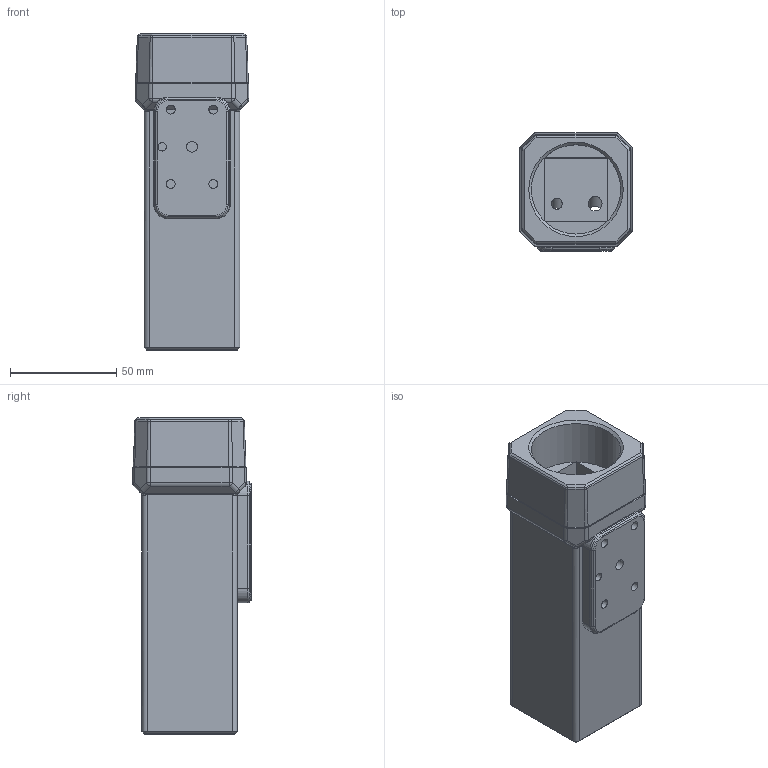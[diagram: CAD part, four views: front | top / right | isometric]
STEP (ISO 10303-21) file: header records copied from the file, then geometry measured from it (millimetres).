
FILE_DESCRIPTION (( 'STEP AP214' ), '1' );
FILE_NAME ('GET_CAM_Housing_Base_Outside_2021_2_16.STEP', '2021-02-16T14:22:53', ( '' ), ( '' ), 'SwSTEP 2.0', 'SolidWorks 2020', '' );
FILE_SCHEMA (( 'AUTOMOTIVE_DESIGN' ));
Length unit declared in the file: millimetre
Products named in the file (1): GET_CAM_Housing_Base_Outside_2021_2_16
Bounding box: 53.5 x 55.75 x 148.8 mm (x, y, z)
Volume: 201430.2 mm3; surface area: 51968.1 mm2
Topology: 2 solids, 2 shells, 215 faces, 480 edges, 272 vertices
Faces by surface type: plane 71, cylinder 67, cone 33, torus 20, sphere 12, bspline 12
Full cylindrical faces by diameter (mm): 4 x1, 4.2 x4, 5 x1, 5.105 x1, 6.5 x1, 42 x1
Entity records: 5895 total; most frequent: CARTESIAN_POINT 1234, DIRECTION 1020, ORIENTED_EDGE 918, EDGE_CURVE 459, AXIS2_PLACEMENT_3D 393, VERTEX_POINT 265, EDGE_LOOP 238, VECTOR 234
